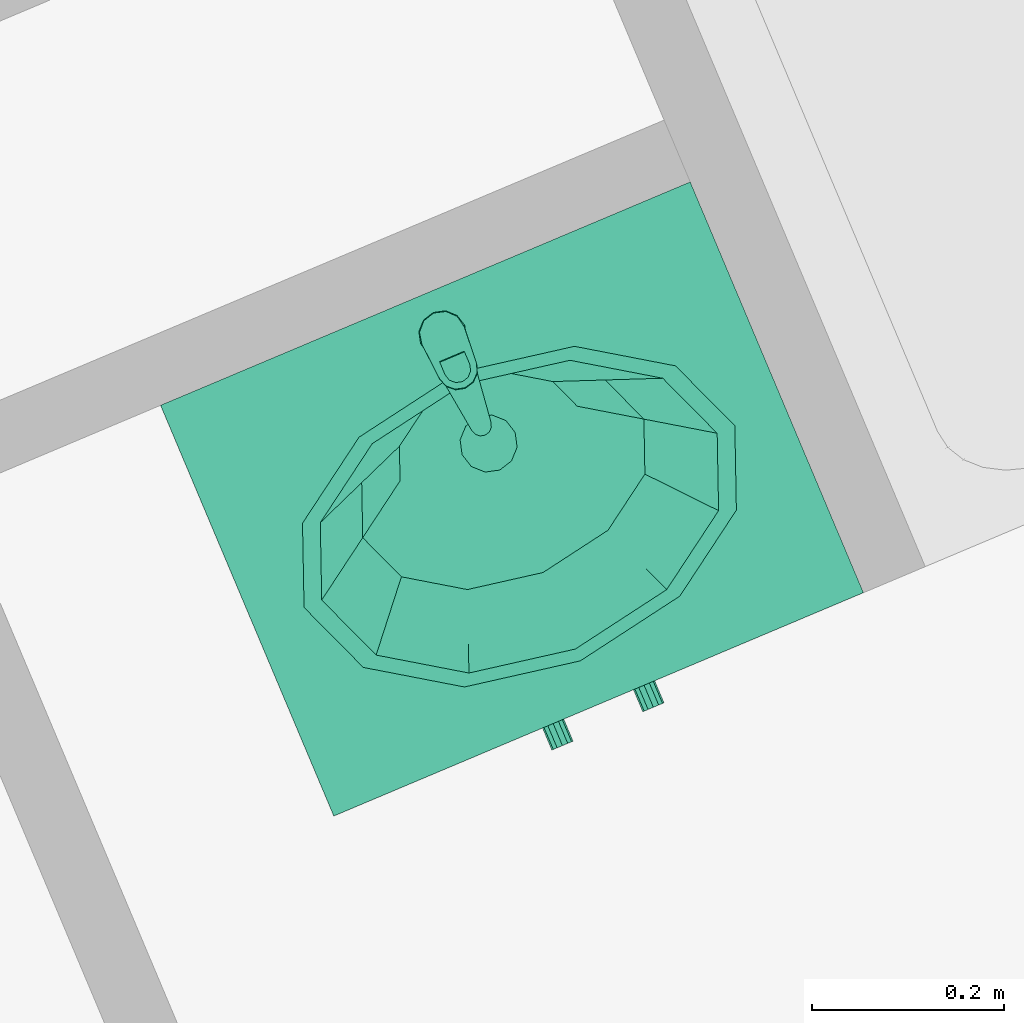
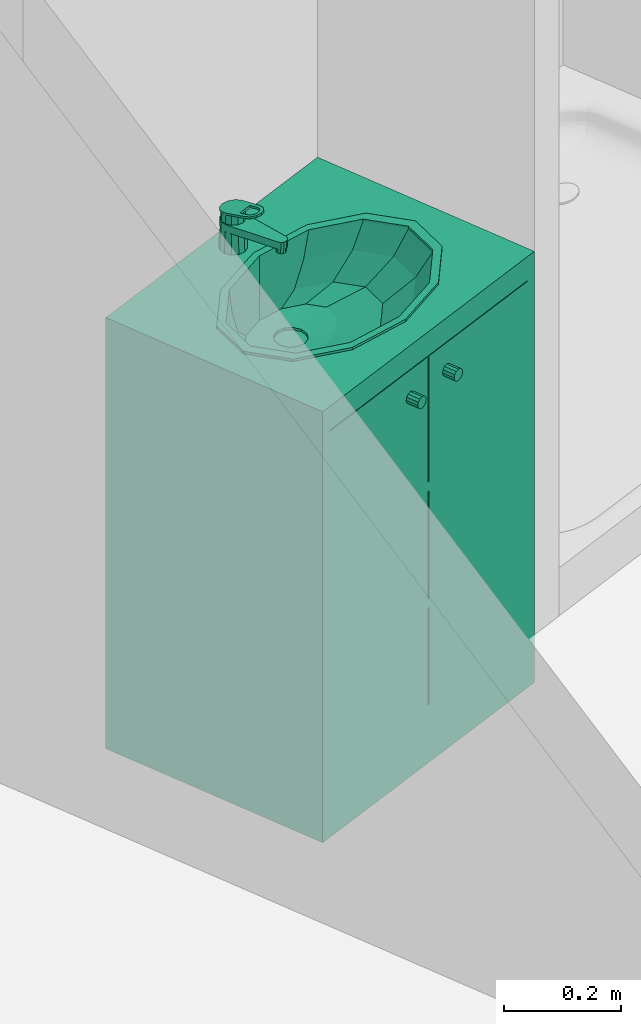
# One storey, part 139 of 195: 1 distribution element.
"""IFC2X3 building model written with IfcOpenShell, lengths in metres."""

from ifc_helpers import new_model, entity, si_unit, converted_unit, derived_unit, money_unit, direction, frame, origin_with_axes, place, context, subcontext, project, spatial, open_shell, faceted_brep, surface_model, source, transform, mapped, type_object, element, save


model = new_model("IFC2X3")

# Units and contexts
model_context = context("Model", 3, precision=1e-05, world=origin_with_axes(), true_north=direction((0.0, 1.0)))
body_context = subcontext(model_context, "Body", "Model", "MODEL_VIEW")
ifc_project = project(units=[si_unit("LENGTHUNIT", "METRE"), si_unit("AREAUNIT", "SQUARE_METRE"), si_unit("VOLUMEUNIT", "CUBIC_METRE"), converted_unit("PLANEANGLEUNIT", "DEGREE", entity("IfcPlaneAngleMeasure", 0.0174532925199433), si_unit("PLANEANGLEUNIT", "RADIAN"), dimensions=[0, 0, 0, 0, 0, 0, 0]), money_unit("CHF"), converted_unit("TIMEUNIT", "Year", entity("IfcTimeMeasure", 31557600.0), si_unit("TIMEUNIT", "SECOND"), dimensions=[0, 0, 1, 0, 0, 0, 0]), si_unit("MASSUNIT", "GRAM", prefix="KILO"), si_unit("THERMODYNAMICTEMPERATUREUNIT", "DEGREE_CELSIUS"), si_unit("LUMINOUSINTENSITYUNIT", "LUMEN"), si_unit("ENERGYUNIT", "JOULE", prefix="MEGA"), derived_unit("THERMALCONDUCTANCEUNIT", [(si_unit("POWERUNIT", "WATT"), 1), (si_unit("LENGTHUNIT", "METRE"), -1), (si_unit("THERMODYNAMICTEMPERATUREUNIT", "KELVIN"), -1)]), derived_unit("SPECIFICHEATCAPACITYUNIT", [(si_unit("ENERGYUNIT", "JOULE"), 1), (si_unit("MASSUNIT", "GRAM", prefix="KILO"), -1), (si_unit("THERMODYNAMICTEMPERATUREUNIT", "KELVIN"), -1)]), derived_unit("MASSDENSITYUNIT", [(si_unit("MASSUNIT", "GRAM", prefix="KILO"), 1), (si_unit("VOLUMEUNIT", "CUBIC_METRE"), -1)])], contexts=[model_context])

# Site, building, storey
site_placement = place(None, origin_with_axes())
site = spatial("IfcSite", under=ifc_project, at=site_placement, Name="Site", CompositionType="ELEMENT")
building_placement = place(site_placement, origin_with_axes())
building = spatial("IfcBuilding", under=site, at=building_placement, Name="Bâtiment", CompositionType="ELEMENT")
storey_placement = place(building_placement, origin_with_axes())
storey = spatial("IfcBuildingStorey", under=building, at=storey_placement, Name="rdc", CompositionType="ELEMENT", Elevation=0.0)

# Distribution element
distribution_element_type = type_object("IfcDistributionElementType", Name="Lavabo sur meuble 27")
shared_shape = source(origin_with_axes(), body_context, "Body", "SurfaceModel", [
    faceted_brep([(0.0, 0.0, 0.0), (0.0, 0.0, 0.1), (-0.6, 0.0, 0.1), (-0.6, 0.0, 0.0), (0.0, 0.4653441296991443, 0.0), (0.0, 0.4653441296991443, 0.1), (-0.6, 0.4653441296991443, 0.1), (-0.6, 0.4653441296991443, 0.0)], [[[0, 1, 2, 3]], [[4, 5, 1, 0]], [[1, 5, 6, 2]], [[3, 2, 6, 7]], [[0, 3, 7, 4]], [[7, 6, 5, 4]]]),
    faceted_brep([(0.0, 0.0, 0.1), (0.0, 0.0, 0.12), (-0.02, 0.0, 0.12), (-0.02, 0.0, 0.1), (0.0, 0.4653441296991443, 0.1), (0.0, 0.4653441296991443, 0.12), (-0.02, 0.4653441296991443, 0.12), (-0.58, 0.4653441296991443, 0.12), (-0.6, 0.4653441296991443, 0.12), (-0.6, 0.0, 0.12), (-0.58, 0.0, 0.12), (-0.58, 0.0, 0.1), (-0.6, 0.0, 0.1), (-0.6, 0.4653441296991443, 0.1), (-0.58, 0.4653441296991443, 0.1), (-0.02, 0.4653441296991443, 0.1)], [[[0, 1, 2, 3]], [[4, 5, 1, 0]], [[1, 5, 6, 7, 8, 9, 10, 2]], [[3, 2, 10, 11]], [[0, 3, 11, 12, 13, 14, 15, 4]], [[15, 6, 5, 4]], [[14, 7, 6, 15]], [[13, 8, 7, 14]], [[12, 9, 8, 13]], [[11, 10, 9, 12]]]),
    faceted_brep([(0.0, 0.0, 0.12), (0.0, 0.0, 0.85), (-0.02, 0.0, 0.85), (-0.02, 0.0, 0.12), (0.0, 0.4653441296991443, 0.12), (0.0, 0.4653441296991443, 0.85), (-0.6, 0.4653441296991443, 0.85), (-0.6, 0.0, 0.85), (-0.58, 0.0, 0.85), (-0.58, 0.4453441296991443, 0.85), (-0.02, 0.4453441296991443, 0.85), (-0.02, 0.4453441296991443, 0.12), (-0.58, 0.4453441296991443, 0.12), (-0.58, 0.0, 0.12), (-0.6, 0.0, 0.12), (-0.6, 0.4653441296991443, 0.12)], [[[0, 1, 2, 3]], [[4, 5, 1, 0]], [[1, 5, 6, 7, 8, 9, 10, 2]], [[3, 2, 10, 11]], [[0, 3, 11, 12, 13, 14, 15, 4]], [[15, 6, 5, 4]], [[14, 7, 6, 15]], [[13, 8, 7, 14]], [[12, 9, 8, 13]], [[11, 10, 9, 12]]]),
    faceted_brep([(-0.58, 0.0, 0.3233333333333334), (-0.58, 0.0, 0.3433333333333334), (-0.58, 0.4453441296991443, 0.3433333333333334), (-0.58, 0.4453441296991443, 0.3233333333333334), (-0.02, 0.0, 0.3233333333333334), (-0.02, 0.0, 0.3433333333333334), (-0.02, 0.4453441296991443, 0.3433333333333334), (-0.02, 0.4453441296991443, 0.3233333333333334)], [[[0, 1, 2, 3]], [[4, 5, 1, 0]], [[1, 5, 6, 2]], [[3, 2, 6, 7]], [[0, 3, 7, 4]], [[7, 6, 5, 4]]]),
    faceted_brep([(-0.58, 0.0, 0.5666666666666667), (-0.58, 0.0, 0.5866666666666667), (-0.58, 0.4453441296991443, 0.5866666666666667), (-0.58, 0.4453441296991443, 0.5666666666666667), (-0.02, 0.0, 0.5666666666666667), (-0.02, 0.0, 0.5866666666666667), (-0.02, 0.4453441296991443, 0.5866666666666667), (-0.02, 0.4453441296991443, 0.5666666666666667)], [[[0, 1, 2, 3]], [[4, 5, 1, 0]], [[1, 5, 6, 2]], [[3, 2, 6, 7]], [[0, 3, 7, 4]], [[7, 6, 5, 4]]]),
    faceted_brep([(0.0, 0.4653441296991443, 0.85), (0.0, 0.0, 0.85), (-0.6, 0.0, 0.85), (-0.6, 0.4653441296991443, 0.85), (-0.4124999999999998, 0.08276825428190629, 0.85), (-0.3, 0.06267206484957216, 0.85), (-0.1874999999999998, 0.08276825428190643, 0.85), (-0.1051442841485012, 0.1376720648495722, 0.85), (-0.07499999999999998, 0.2126720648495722, 0.85), (-0.1051442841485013, 0.2876720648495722, 0.85), (-0.1875000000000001, 0.342575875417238, 0.85), (-0.3, 0.3626720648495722, 0.85), (-0.4125, 0.3425758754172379, 0.85), (-0.4948557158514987, 0.2876720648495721, 0.85), (-0.525, 0.2126720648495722, 0.85), (-0.4948557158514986, 0.137672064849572, 0.85), (0.0, 0.4653441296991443, 0.9), (0.0, 0.0, 0.9), (-0.6, 0.0, 0.9), (-0.6, 0.4653441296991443, 0.9), (-0.3, 0.06267206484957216, 0.9), (-0.4124999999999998, 0.08276825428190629, 0.9), (-0.1874999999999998, 0.08276825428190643, 0.9), (-0.1051442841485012, 0.1376720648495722, 0.9), (-0.07499999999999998, 0.2126720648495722, 0.9), (-0.1051442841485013, 0.2876720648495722, 0.9), (-0.1875000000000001, 0.342575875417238, 0.9), (-0.3, 0.3626720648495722, 0.9), (-0.4125, 0.3425758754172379, 0.9), (-0.4948557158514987, 0.2876720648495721, 0.9), (-0.525, 0.2126720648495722, 0.9), (-0.4948557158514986, 0.137672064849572, 0.9)], [[[0, 1, 2, 3], [4, 5, 6, 7, 8, 9, 10, 11, 12, 13, 14, 15]], [[1, 0, 16, 17]], [[2, 1, 17, 18]], [[3, 2, 18, 19]], [[0, 3, 19, 16]], [[20, 5, 4, 21]], [[22, 6, 5, 20]], [[23, 7, 6, 22]], [[24, 8, 7, 23]], [[25, 9, 8, 24]], [[26, 10, 9, 25]], [[27, 11, 10, 26]], [[28, 12, 11, 27]], [[29, 13, 12, 28]], [[30, 14, 13, 29]], [[31, 15, 14, 30]], [[21, 4, 15, 31]], [[18, 17, 16, 19], [28, 27, 26, 25, 24, 23, 22, 20, 21, 31, 30, 29]]]),
    faceted_brep([(-0.544, 0.2126720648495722, 0.905), (-0.511310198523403, 0.2943684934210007, 0.905), (-0.511310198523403, 0.2943684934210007, 0.9), (-0.544, 0.2126720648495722, 0.9), (-0.5113101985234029, 0.1309756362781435, 0.905), (-0.4219999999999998, 0.07116969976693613, 0.905), (-0.3, 0.04927920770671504, 0.905), (-0.1779999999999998, 0.07116969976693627, 0.905), (-0.08868980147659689, 0.1309756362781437, 0.905), (-0.05599999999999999, 0.2126720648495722, 0.905), (-0.088689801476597, 0.2943684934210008, 0.905), (-0.178, 0.3541744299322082, 0.905), (-0.3, 0.3760649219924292, 0.905), (-0.422, 0.3541744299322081, 0.905), (-0.524, 0.2126720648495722, 0.905), (-0.4939896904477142, 0.2876720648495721, 0.905), (-0.412, 0.3425758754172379, 0.905), (-0.3, 0.3626720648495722, 0.905), (-0.1880000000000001, 0.342575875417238, 0.905), (-0.1060103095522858, 0.2876720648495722, 0.905), (-0.07599999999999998, 0.2126720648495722, 0.905), (-0.1060103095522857, 0.1376720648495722, 0.905), (-0.1879999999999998, 0.08276825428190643, 0.905), (-0.3, 0.06267206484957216, 0.905), (-0.4119999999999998, 0.08276825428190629, 0.905), (-0.4939896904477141, 0.137672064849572, 0.905), (-0.422, 0.3541744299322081, 0.9), (-0.3, 0.3760649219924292, 0.9), (-0.178, 0.3541744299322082, 0.9), (-0.088689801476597, 0.2943684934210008, 0.9), (-0.05599999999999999, 0.2126720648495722, 0.9), (-0.08868980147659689, 0.1309756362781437, 0.9), (-0.1779999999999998, 0.07116969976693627, 0.9), (-0.3, 0.04927920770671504, 0.9), (-0.4219999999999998, 0.07116969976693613, 0.9), (-0.5113101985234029, 0.1309756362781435, 0.9), (-0.524, 0.2126720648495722, 0.9), (-0.4939896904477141, 0.137672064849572, 0.9), (-0.4119999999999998, 0.08276825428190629, 0.9), (-0.3, 0.06267206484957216, 0.9), (-0.1879999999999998, 0.08276825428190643, 0.9), (-0.1060103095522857, 0.1376720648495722, 0.9), (-0.07599999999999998, 0.2126720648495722, 0.9), (-0.1060103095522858, 0.2876720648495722, 0.9), (-0.1880000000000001, 0.342575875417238, 0.9), (-0.3, 0.3626720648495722, 0.9), (-0.412, 0.3425758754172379, 0.9), (-0.4939896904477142, 0.2876720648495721, 0.9)], [[[0, 1, 2, 3]], [[0, 4, 5, 6, 7, 8, 9, 10, 11, 12, 13, 1], [14, 15, 16, 17, 18, 19, 20, 21, 22, 23, 24, 25]], [[1, 13, 26, 2]], [[3, 2, 26, 27, 28, 29, 30, 31, 32, 33, 34, 35], [36, 37, 38, 39, 40, 41, 42, 43, 44, 45, 46, 47]], [[4, 0, 3, 35]], [[5, 4, 35, 34]], [[6, 5, 34, 33]], [[7, 6, 33, 32]], [[8, 7, 32, 31]], [[9, 8, 31, 30]], [[10, 9, 30, 29]], [[11, 10, 29, 28]], [[12, 11, 28, 27]], [[13, 12, 27, 26]], [[15, 14, 36, 47]], [[16, 15, 47, 46]], [[17, 16, 46, 45]], [[18, 17, 45, 44]], [[19, 18, 44, 43]], [[20, 19, 43, 42]], [[21, 20, 42, 41]], [[22, 21, 41, 40]], [[23, 22, 40, 39]], [[24, 23, 39, 38]], [[25, 24, 38, 37]], [[14, 25, 37, 36]]]),
    surface_model("IfcShellBasedSurfaceModel", [(-0.3, 0.3626720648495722, 0.9), (-0.412, 0.342575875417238, 0.9), (-0.4008, 0.3445854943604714, 0.848), (-0.3, 0.3626720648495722, 0.848), (-0.4939896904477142, 0.2876720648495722, 0.9), (-0.4745907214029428, 0.2951720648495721, 0.848), (-0.1879999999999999, 0.3425758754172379, 0.9), (-0.1991999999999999, 0.3445854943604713, 0.848), (-0.524, 0.2126720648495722, 0.9), (-0.5016, 0.2276720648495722, 0.848), (-0.1060103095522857, 0.2876720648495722, 0.9), (-0.1254092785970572, 0.2951720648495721, 0.848), (-0.4939896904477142, 0.1376720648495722, 0.9), (-0.4745907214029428, 0.1601720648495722, 0.848), (-0.07599999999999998, 0.2126720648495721, 0.9), (-0.09839999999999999, 0.2276720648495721, 0.848), (-0.412, 0.08276825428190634, 0.9), (-0.4008, 0.1107586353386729, 0.848), (-0.1060103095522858, 0.1376720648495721, 0.9), (-0.1254092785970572, 0.1601720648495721, 0.848), (-0.3, 0.06267206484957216, 0.9), (-0.3, 0.09267206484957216, 0.848), (-0.1879999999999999, 0.08276825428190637, 0.9), (-0.1992, 0.110758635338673, 0.848)], [open_shell([[[0, 1, 2, 3]], [[1, 4, 5, 2]], [[6, 0, 3, 7]], [[4, 8, 9, 5]], [[10, 6, 7, 11]], [[8, 12, 13, 9]], [[14, 10, 11, 15]], [[12, 16, 17, 13]], [[18, 14, 15, 19]], [[16, 20, 21, 17]], [[22, 18, 19, 23]], [[20, 22, 23, 21]]])]),
    surface_model("IfcShellBasedSurfaceModel", [(-0.3, 0.3626720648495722, 0.848), (-0.4008, 0.3445854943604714, 0.848), (-0.379632, 0.3483836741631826, 0.7959999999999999), (-0.3, 0.3626720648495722, 0.7959999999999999), (-0.4745907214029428, 0.2951720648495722, 0.848), (-0.4379266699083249, 0.3093470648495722, 0.7959999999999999), (-0.1991999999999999, 0.3445854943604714, 0.848), (-0.2203679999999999, 0.3483836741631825, 0.7959999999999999), (-0.5016, 0.2276720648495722, 0.848), (-0.459264, 0.2560220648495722, 0.7959999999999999), (-0.1254092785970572, 0.2951720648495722, 0.848), (-0.1620733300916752, 0.3093470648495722, 0.7959999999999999), (-0.4745907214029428, 0.1601720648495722, 0.848), (-0.4379266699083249, 0.2026970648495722, 0.7959999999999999), (-0.09839999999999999, 0.2276720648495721, 0.848), (-0.140736, 0.2560220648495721, 0.7959999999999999), (-0.4008, 0.1107586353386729, 0.848), (-0.379632, 0.1636604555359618, 0.7959999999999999), (-0.1254092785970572, 0.1601720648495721, 0.848), (-0.1620733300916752, 0.2026970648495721, 0.7959999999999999), (-0.3, 0.09267206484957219, 0.848), (-0.3, 0.1493720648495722, 0.7959999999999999), (-0.1992, 0.110758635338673, 0.848), (-0.220368, 0.1636604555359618, 0.7959999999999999)], [open_shell([[[0, 1, 2, 3]], [[1, 4, 5, 2]], [[6, 0, 3, 7]], [[4, 8, 9, 5]], [[10, 6, 7, 11]], [[8, 12, 13, 9]], [[14, 10, 11, 15]], [[12, 16, 17, 13]], [[18, 14, 15, 19]], [[16, 20, 21, 17]], [[22, 18, 19, 23]], [[20, 22, 23, 21]]])]),
    surface_model("IfcShellBasedSurfaceModel", [(-0.3, 0.3626720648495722, 0.7959999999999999), (-0.379632, 0.3483836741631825, 0.7959999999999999), (-0.35016816, 0.3536703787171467, 0.7699999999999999), (-0.3, 0.3626720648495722, 0.7699999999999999), (-0.4379266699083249, 0.3093470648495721, 0.7959999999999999), (-0.3868938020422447, 0.3290773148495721, 0.7699999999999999), (-0.2203679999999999, 0.3483836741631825, 0.7959999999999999), (-0.2498318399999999, 0.3536703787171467, 0.7699999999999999), (-0.459264, 0.2560220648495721, 0.7959999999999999), (-0.40033632, 0.2954825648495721, 0.7699999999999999), (-0.1620733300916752, 0.3093470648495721, 0.7959999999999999), (-0.2131061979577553, 0.3290773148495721, 0.7699999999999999), (-0.4379266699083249, 0.2026970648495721, 0.7959999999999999), (-0.3868938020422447, 0.2618878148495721, 0.7699999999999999), (-0.140736, 0.2560220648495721, 0.7959999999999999), (-0.19966368, 0.2954825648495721, 0.7699999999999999), (-0.379632, 0.1636604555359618, 0.7959999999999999), (-0.35016816, 0.2372947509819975, 0.7699999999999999), (-0.1620733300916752, 0.2026970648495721, 0.7959999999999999), (-0.2131061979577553, 0.2618878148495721, 0.7699999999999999), (-0.3, 0.1493720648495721, 0.7959999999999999), (-0.3, 0.2282930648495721, 0.7699999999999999), (-0.220368, 0.1636604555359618, 0.7959999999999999), (-0.24983184, 0.2372947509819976, 0.7699999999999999)], [open_shell([[[0, 1, 2, 3]], [[1, 4, 5, 2]], [[6, 0, 3, 7]], [[4, 8, 9, 5]], [[10, 6, 7, 11]], [[8, 12, 13, 9]], [[14, 10, 11, 15]], [[12, 16, 17, 13]], [[18, 14, 15, 19]], [[16, 20, 21, 17]], [[22, 18, 19, 23]], [[20, 22, 23, 21]]])]),
    surface_model("IfcShellBasedSurfaceModel", [(-0.3, 0.3626720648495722, 0.7699999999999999), (-0.35016816, 0.3536703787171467, 0.7699999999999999), (-0.315, 0.3214633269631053, 0.7629999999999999), (-0.3259807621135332, 0.3104825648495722, 0.7629999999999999), (-0.3, 0.3254825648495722, 0.7629999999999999), (-0.3868938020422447, 0.3290773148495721, 0.7699999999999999), (-0.2498318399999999, 0.3536703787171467, 0.7699999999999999), (-0.33, 0.2954825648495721, 0.7629999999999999), (-0.285, 0.3214633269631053, 0.7629999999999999), (-0.40033632, 0.2954825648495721, 0.7699999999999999), (-0.2131061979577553, 0.3290773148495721, 0.7699999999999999), (-0.3259807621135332, 0.2804825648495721, 0.7629999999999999), (-0.2740192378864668, 0.3104825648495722, 0.7629999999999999), (-0.3868938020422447, 0.2618878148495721, 0.7699999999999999), (-0.19966368, 0.2954825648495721, 0.7699999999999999), (-0.315, 0.269501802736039, 0.7629999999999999), (-0.27, 0.2954825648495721, 0.7629999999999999), (-0.35016816, 0.2372947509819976, 0.7699999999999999), (-0.2131061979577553, 0.2618878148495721, 0.7699999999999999), (-0.3, 0.2654825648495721, 0.7629999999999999), (-0.2740192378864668, 0.2804825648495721, 0.7629999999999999), (-0.3, 0.2282930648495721, 0.7699999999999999), (-0.24983184, 0.2372947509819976, 0.7699999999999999), (-0.285, 0.269501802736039, 0.7629999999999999)], [open_shell([[[0, 1, 2]], [[1, 3, 2]], [[0, 2, 4]], [[1, 5, 3]], [[6, 0, 4]], [[5, 7, 3]], [[6, 4, 8]], [[5, 9, 7]], [[10, 6, 8]], [[9, 11, 7]], [[10, 8, 12]], [[9, 13, 11]], [[14, 10, 12]], [[13, 15, 11]], [[14, 12, 16]], [[13, 17, 15]], [[18, 14, 16]], [[17, 19, 15]], [[18, 16, 20]], [[17, 21, 19]], [[22, 18, 20]], [[21, 23, 19]], [[22, 20, 23]], [[21, 22, 23]]])]),
    surface_model("IfcShellBasedSurfaceModel", [(-0.33, 0.2954825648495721, 0.763), (-0.3259807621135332, 0.3104825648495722, 0.763), (-0.3259807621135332, 0.3104825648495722, 0.758), (-0.33, 0.2954825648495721, 0.758), (-0.315, 0.3214633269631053, 0.763), (-0.315, 0.3214633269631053, 0.758), (-0.3, 0.3254825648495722, 0.758), (-0.285, 0.3214633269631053, 0.758), (-0.2740192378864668, 0.3104825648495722, 0.758), (-0.27, 0.2954825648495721, 0.758), (-0.2740192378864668, 0.2804825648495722, 0.758), (-0.285, 0.269501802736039, 0.758), (-0.3, 0.2654825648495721, 0.758), (-0.3149999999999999, 0.269501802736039, 0.758), (-0.3259807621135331, 0.2804825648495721, 0.758), (-0.3259807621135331, 0.2804825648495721, 0.763), (-0.3, 0.3254825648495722, 0.763), (-0.285, 0.3214633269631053, 0.763), (-0.2740192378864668, 0.3104825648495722, 0.763), (-0.27, 0.2954825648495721, 0.763), (-0.2740192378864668, 0.2804825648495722, 0.763), (-0.285, 0.269501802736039, 0.763), (-0.3, 0.2654825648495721, 0.763), (-0.3149999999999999, 0.269501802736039, 0.763)], [open_shell([[[0, 1, 2, 3]], [[1, 4, 5, 2]], [[3, 2, 5, 6, 7, 8, 9, 10, 11, 12, 13, 14]], [[15, 0, 3, 14]], [[4, 16, 6, 5]], [[16, 17, 7, 6]], [[17, 18, 8, 7]], [[18, 19, 9, 8]], [[19, 20, 10, 9]], [[20, 21, 11, 10]], [[21, 22, 12, 11]], [[22, 23, 13, 12]], [[23, 15, 14, 13]]])]),
    faceted_brep([(-0.3125, 0.4406587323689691, 0.9), (-0.310587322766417, 0.4373458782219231, 0.976507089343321), (-0.3, 0.4402100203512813, 0.9759615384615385), (-0.3, 0.4440080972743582, 0.9), (-0.3216506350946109, 0.4315080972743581, 0.9), (-0.3182735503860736, 0.4295583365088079, 0.9779904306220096), (-0.321, 0.4190080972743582, 0.98), (-0.3181003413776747, 0.4085578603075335, 0.9819905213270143), (-0.3104141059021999, 0.400970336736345, 0.9834357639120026), (-0.3, 0.3982062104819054, 0.9839622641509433), (-0.2895858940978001, 0.400970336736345, 0.9834357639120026), (-0.2818996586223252, 0.4085578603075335, 0.9819905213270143), (-0.279, 0.4190080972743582, 0.98), (-0.2817264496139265, 0.4295583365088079, 0.9779904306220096), (-0.289412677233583, 0.4373458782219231, 0.976507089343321), (-0.2875, 0.4406587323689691, 0.9), (-0.278349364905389, 0.4315080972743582, 0.9), (-0.275, 0.4190080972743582, 0.9), (-0.278349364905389, 0.4065080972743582, 0.9), (-0.2875, 0.3973574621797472, 0.9), (-0.3, 0.3940080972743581, 0.9), (-0.3125, 0.3973574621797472, 0.9), (-0.3216506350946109, 0.4065080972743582, 0.9), (-0.325, 0.4190080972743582, 0.9)], [[[0, 1, 2, 3]], [[4, 5, 1, 0]], [[1, 5, 6, 7, 8, 9, 10, 11, 12, 13, 14, 2]], [[3, 2, 14, 15]], [[0, 3, 15, 16, 17, 18, 19, 20, 21, 22, 23, 4]], [[23, 6, 5, 4]], [[22, 7, 6, 23]], [[21, 8, 7, 22]], [[20, 9, 8, 21]], [[19, 10, 9, 20]], [[18, 11, 10, 19]], [[17, 12, 11, 18]], [[16, 13, 12, 17]], [[15, 14, 13, 16]]]),
    faceted_brep([(-0.309, 0.3160080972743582, 0.935), (-0.309, 0.3160080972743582, 0.9450000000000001), (-0.3077942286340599, 0.3205080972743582, 0.9450000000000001), (-0.3077942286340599, 0.3205080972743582, 0.935), (-0.3077942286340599, 0.3115080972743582, 0.935), (-0.3077942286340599, 0.3115080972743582, 0.9450000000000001), (-0.3045, 0.3082138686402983, 0.9450000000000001), (-0.3, 0.3070080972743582, 0.9450000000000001), (-0.2955, 0.3082138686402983, 0.9450000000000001), (-0.2922057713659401, 0.3115080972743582, 0.9450000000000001), (-0.291, 0.3160080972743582, 0.9450000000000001), (-0.2922057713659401, 0.3205080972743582, 0.9450000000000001), (-0.2955, 0.3238023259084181, 0.9450000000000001), (-0.3, 0.3250080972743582, 0.9450000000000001), (-0.3045, 0.3238023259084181, 0.9450000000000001), (-0.3045, 0.3238023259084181, 0.935), (-0.3, 0.3250080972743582, 0.935), (-0.2955, 0.3238023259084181, 0.935), (-0.2922057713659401, 0.3205080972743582, 0.935), (-0.291, 0.3160080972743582, 0.935), (-0.2922057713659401, 0.3115080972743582, 0.935), (-0.2955, 0.3082138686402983, 0.935), (-0.3, 0.3070080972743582, 0.935), (-0.3045, 0.3082138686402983, 0.935)], [[[0, 1, 2, 3]], [[4, 5, 1, 0]], [[1, 5, 6, 7, 8, 9, 10, 11, 12, 13, 14, 2]], [[3, 2, 14, 15]], [[0, 3, 15, 16, 17, 18, 19, 20, 21, 22, 23, 4]], [[23, 6, 5, 4]], [[22, 7, 6, 23]], [[21, 8, 7, 22]], [[20, 9, 8, 21]], [[19, 10, 9, 20]], [[18, 11, 10, 19]], [[17, 12, 11, 18]], [[16, 13, 12, 17]], [[15, 14, 13, 16]]]),
    faceted_brep([(-0.2871282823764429, 0.439264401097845, 0.9600000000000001), (-0.300000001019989, 0.44300807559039, 0.9600000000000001), (-0.3128717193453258, 0.4392644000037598, 0.9600000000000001), (-0.3217278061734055, 0.4292013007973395, 0.9600000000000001), (-0.3238053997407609, 0.4159581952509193, 0.9600000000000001), (-0.310912, 0.3146197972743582, 0.9600000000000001), (-0.309028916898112, 0.3097249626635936, 0.9600000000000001), (-0.3050933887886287, 0.3062584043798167, 0.9600000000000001), (-0.300000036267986, 0.305008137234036, 0.9600000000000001), (-0.2949066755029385, 0.3062583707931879, 0.9600000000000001), (-0.2909711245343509, 0.3097249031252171, 0.9600000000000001), (-0.2890880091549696, 0.3146197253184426, 0.9600000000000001), (-0.2761946, 0.4159581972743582, 0.9600000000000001), (-0.2782721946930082, 0.4292013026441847, 0.9600000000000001), (-0.311, 0.4380606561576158, 0.9600000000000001), (-0.3, 0.4410080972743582, 0.9600000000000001), (-0.289, 0.4380606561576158, 0.9600000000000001), (-0.2809474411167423, 0.4300080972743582, 0.9600000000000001), (-0.278, 0.4190080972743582, 0.9600000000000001), (-0.2809474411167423, 0.4080080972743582, 0.9600000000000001), (-0.289, 0.3999555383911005, 0.9600000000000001), (-0.3, 0.3970080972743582, 0.9600000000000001), (-0.3109999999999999, 0.3999555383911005, 0.9600000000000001), (-0.3190525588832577, 0.4080080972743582, 0.9600000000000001), (-0.322, 0.4190080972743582, 0.9600000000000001), (-0.3190525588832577, 0.4300080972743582, 0.9600000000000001), (-0.2871282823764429, 0.439264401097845, 0.9450000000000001), (-0.300000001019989, 0.44300807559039, 0.9450000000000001), (-0.3128717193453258, 0.4392644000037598, 0.9450000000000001), (-0.3217278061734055, 0.4292013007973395, 0.9450000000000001), (-0.3238053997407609, 0.4159581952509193, 0.9450000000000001), (-0.310912, 0.3146197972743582, 0.9450000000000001), (-0.309028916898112, 0.3097249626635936, 0.9450000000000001), (-0.3050933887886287, 0.3062584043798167, 0.9450000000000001), (-0.300000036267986, 0.305008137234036, 0.9450000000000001), (-0.2949066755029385, 0.3062583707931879, 0.9450000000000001), (-0.2909711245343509, 0.3097249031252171, 0.9450000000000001), (-0.2890880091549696, 0.3146197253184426, 0.9450000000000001), (-0.2761946, 0.4159581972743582, 0.9450000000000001), (-0.2782721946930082, 0.4292013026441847, 0.9450000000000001), (-0.3, 0.4417580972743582, 0.9450000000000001), (-0.311375, 0.4387101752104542, 0.9450000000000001), (-0.288625, 0.4387101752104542, 0.9450000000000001), (-0.280297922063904, 0.4303830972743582, 0.9450000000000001), (-0.2772499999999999, 0.4190080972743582, 0.9450000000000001), (-0.280297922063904, 0.4076330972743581, 0.9450000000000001), (-0.288625, 0.3993060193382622, 0.9450000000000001), (-0.3, 0.3962580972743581, 0.9450000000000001), (-0.311375, 0.3993060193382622, 0.9450000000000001), (-0.319702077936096, 0.4076330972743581, 0.9450000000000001), (-0.32275, 0.4190080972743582, 0.9450000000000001), (-0.319702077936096, 0.4303830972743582, 0.9450000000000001)], [[[0, 1, 2, 3, 4, 5, 6, 7, 8, 9, 10, 11, 12, 13], [14, 15, 16, 17, 18, 19, 20, 21, 22, 23, 24, 25]], [[26, 27, 1, 0]], [[27, 28, 2, 1]], [[28, 29, 3, 2]], [[29, 30, 4, 3]], [[30, 31, 5, 4]], [[31, 32, 6, 5]], [[32, 33, 7, 6]], [[33, 34, 8, 7]], [[34, 35, 9, 8]], [[35, 36, 10, 9]], [[36, 37, 11, 10]], [[37, 38, 12, 11]], [[38, 39, 13, 12]], [[39, 26, 0, 13]], [[40, 15, 14, 41]], [[42, 16, 15, 40]], [[16, 42, 43, 17]], [[17, 43, 44, 18]], [[18, 44, 45, 19]], [[19, 45, 46, 20]], [[20, 46, 47, 21]], [[48, 22, 21, 47]], [[49, 23, 22, 48]], [[50, 24, 23, 49]], [[51, 25, 24, 50]], [[41, 14, 25, 51]], [[34, 33, 32, 31, 30, 29, 28, 27, 26, 39, 38, 37, 36, 35], [48, 47, 46, 45, 44, 43, 42, 40, 41, 51, 50, 49]]]),
    faceted_brep([(-0.323893, 0.4173155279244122, 0.9803223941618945), (-0.323893, 0.4180639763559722, 0.9842517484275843), (-0.3212964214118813, 0.4305312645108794, 0.9818770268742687), (-0.3212964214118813, 0.4297828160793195, 0.9779476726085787), (-0.3209459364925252, 0.377171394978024, 0.9879688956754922), (-0.3209459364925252, 0.377919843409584, 0.9918982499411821), (-0.317663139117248, 0.3682421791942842, 0.9937416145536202), (-0.3100614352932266, 0.3612927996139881, 0.995065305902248), (-0.2999995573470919, 0.3587709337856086, 0.9955456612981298), (-0.289937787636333, 0.3612932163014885, 0.9950652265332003), (-0.2823363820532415, 0.3682429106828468, 0.9937414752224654), (-0.279054, 0.3779207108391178, 0.991898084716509), (-0.2761069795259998, 0.4180642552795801, 0.9842516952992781), (-0.2787037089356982, 0.4305315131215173, 0.9818769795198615), (-0.2875283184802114, 0.4398477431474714, 0.9801024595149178), (-0.3000001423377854, 0.4432885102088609, 0.9794470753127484), (-0.3124719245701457, 0.4398475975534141, 0.9801024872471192), (-0.314, 0.3942157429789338, 0.9887942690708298), (-0.286, 0.3942157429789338, 0.9887942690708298), (-0.286, 0.3794001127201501, 0.9916162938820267), (-0.2878756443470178, 0.3725237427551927, 0.9929260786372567), (-0.293, 0.3674898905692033, 0.9938849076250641), (-0.3, 0.3656473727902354, 0.9942358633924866), (-0.307, 0.3674898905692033, 0.9938849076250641), (-0.3121243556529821, 0.3725237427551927, 0.9929260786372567), (-0.314, 0.3794001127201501, 0.9916162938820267), (-0.3124719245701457, 0.4390991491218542, 0.9761731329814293), (-0.3000001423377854, 0.4425400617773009, 0.9755177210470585), (-0.2875283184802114, 0.4390992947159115, 0.976173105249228), (-0.2787037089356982, 0.4297830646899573, 0.9779476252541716), (-0.2761069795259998, 0.4173158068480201, 0.9803223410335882), (-0.279054, 0.3771722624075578, 0.9879687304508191), (-0.2823363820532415, 0.3674944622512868, 0.9898121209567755), (-0.289937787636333, 0.3605447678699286, 0.9911358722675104), (-0.2999995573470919, 0.3580224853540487, 0.9916163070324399), (-0.3100614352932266, 0.3605443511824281, 0.9911359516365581), (-0.317663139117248, 0.3674937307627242, 0.9898122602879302), (-0.314, 0.3934672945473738, 0.9848649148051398), (-0.314, 0.37865166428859, 0.9876869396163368), (-0.3121243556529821, 0.3717752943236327, 0.9889967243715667), (-0.307, 0.3667414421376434, 0.9899555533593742), (-0.3, 0.3648989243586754, 0.9903065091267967), (-0.293, 0.3667414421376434, 0.9899555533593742), (-0.2878756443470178, 0.3717752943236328, 0.9889967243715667), (-0.286, 0.37865166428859, 0.9876869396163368), (-0.286, 0.3934672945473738, 0.9848649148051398)], [[[0, 1, 2, 3]], [[4, 5, 1, 0]], [[1, 5, 6, 7, 8, 9, 10, 11, 12, 13, 14, 15, 16, 2], [17, 18, 19, 20, 21, 22, 23, 24, 25]], [[3, 2, 16, 26]], [[0, 3, 26, 27, 28, 29, 30, 31, 32, 33, 34, 35, 36, 4], [37, 38, 39, 40, 41, 42, 43, 44, 45]], [[36, 6, 5, 4]], [[35, 7, 6, 36]], [[34, 8, 7, 35]], [[33, 9, 8, 34]], [[32, 10, 9, 33]], [[31, 11, 10, 32]], [[30, 12, 11, 31]], [[29, 13, 12, 30]], [[28, 14, 13, 29]], [[27, 15, 14, 28]], [[26, 16, 15, 27]], [[45, 18, 17, 37]], [[44, 19, 18, 45]], [[43, 20, 19, 44]], [[42, 21, 20, 43]], [[41, 22, 21, 42]], [[40, 23, 22, 41]], [[39, 24, 23, 40]], [[38, 25, 24, 39]], [[37, 17, 25, 38]]]),
    surface_model("IfcShellBasedSurfaceModel", [(-0.001500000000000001, 0.0, 0.1015), (-0.2985, 0.0, 0.1015), (-0.2985, 0.0, 0.8485), (-0.001500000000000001, 0.0, 0.8485)], [open_shell([[[0, 1, 2, 3]]])]),
    faceted_brep([(-0.2588923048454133, 0.0, 0.7855), (-0.2605, 0.0, 0.7915), (-0.2588923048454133, 0.0, 0.7975), (-0.2545, 0.0, 0.8018923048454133), (-0.2485, 0.0, 0.8035), (-0.2425, 0.0, 0.8018923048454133), (-0.2381076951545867, 0.0, 0.7975), (-0.2365, 0.0, 0.7915), (-0.2381076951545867, 0.0, 0.7855), (-0.2425, 0.0, 0.7811076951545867), (-0.2485, 0.0, 0.7795), (-0.2545, 0.0, 0.7811076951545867), (-0.2588923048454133, -0.025, 0.7855), (-0.2605, -0.025, 0.7915), (-0.2588923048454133, -0.025, 0.7975), (-0.2545, -0.025, 0.8018923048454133), (-0.2485, -0.025, 0.8035), (-0.2425, -0.025, 0.8018923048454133), (-0.2381076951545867, -0.025, 0.7975), (-0.2365, -0.025, 0.7915), (-0.2381076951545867, -0.025, 0.7855), (-0.2425, -0.025, 0.7811076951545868), (-0.2485, -0.025, 0.7795), (-0.2545, -0.025, 0.7811076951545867)], [[[0, 1, 2, 3, 4, 5, 6, 7, 8, 9, 10, 11]], [[0, 12, 13, 1]], [[1, 13, 14, 2]], [[2, 14, 15, 3]], [[3, 15, 16, 4]], [[4, 16, 17, 5]], [[5, 17, 18, 6]], [[6, 18, 19, 7]], [[7, 19, 20, 8]], [[8, 20, 21, 9]], [[9, 21, 22, 10]], [[10, 22, 23, 11]], [[11, 23, 12, 0]], [[12, 23, 22, 21, 20, 19, 18, 17, 16, 15, 14, 13]]]),
    surface_model("IfcShellBasedSurfaceModel", [(-0.5985, 0.0, 0.1015), (-0.5985, 0.0, 0.8485), (-0.3015000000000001, 0.0, 0.8485), (-0.3015000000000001, 0.0, 0.1015)], [open_shell([[[0, 1, 2, 3]]])]),
    faceted_brep([(-0.3411076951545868, 0.0, 0.7855), (-0.3455, 0.0, 0.7811076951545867), (-0.3515, 0.0, 0.7795), (-0.3575, 0.0, 0.7811076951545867), (-0.3618923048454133, 0.0, 0.7855), (-0.3635, 0.0, 0.7915), (-0.3618923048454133, 0.0, 0.7975), (-0.3575, 0.0, 0.8018923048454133), (-0.3515, 0.0, 0.8035), (-0.3455, 0.0, 0.8018923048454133), (-0.3411076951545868, 0.0, 0.7975), (-0.3395, 0.0, 0.7915), (-0.3411076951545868, -0.025, 0.7855), (-0.3455, -0.025, 0.7811076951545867), (-0.3515, -0.025, 0.7795), (-0.3575, -0.025, 0.7811076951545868), (-0.3618923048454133, -0.025, 0.7855), (-0.3635, -0.025, 0.7915), (-0.3618923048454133, -0.025, 0.7975), (-0.3575, -0.025, 0.8018923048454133), (-0.3515, -0.025, 0.8035), (-0.3455, -0.025, 0.8018923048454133), (-0.3411076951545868, -0.025, 0.7975), (-0.3395, -0.025, 0.7915)], [[[0, 1, 2, 3, 4, 5, 6, 7, 8, 9, 10, 11]], [[1, 0, 12, 13]], [[2, 1, 13, 14]], [[3, 2, 14, 15]], [[4, 3, 15, 16]], [[5, 4, 16, 17]], [[6, 5, 17, 18]], [[7, 6, 18, 19]], [[8, 7, 19, 20]], [[9, 8, 20, 21]], [[10, 9, 21, 22]], [[11, 10, 22, 23]], [[0, 11, 23, 12]], [[12, 23, 22, 21, 20, 19, 18, 17, 16, 15, 14, 13]]]),
])
distribution_element_placement = place(storey_placement, frame((9566.30789758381, -1037.006097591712, 57.59999999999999), z_axis=(0.0, 0.0, 1.0), x_axis=(0.921420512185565, 0.3885669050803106, 0.0)))
element("IfcDistributionElement", 1, at=distribution_element_placement, inside=storey, type_object=distribution_element_type, Name="Obj.-004", context=body_context, shape_type="MappedRepresentation", body=[
    mapped(shared_shape, transform((0.0, 0.0, 0.0))),
])

save(model, "model.ifc")
